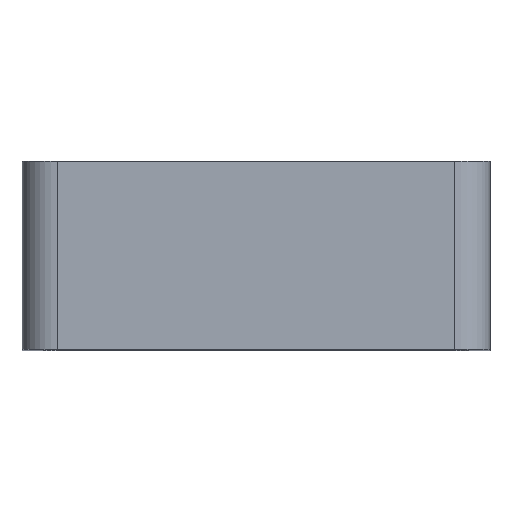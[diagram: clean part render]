
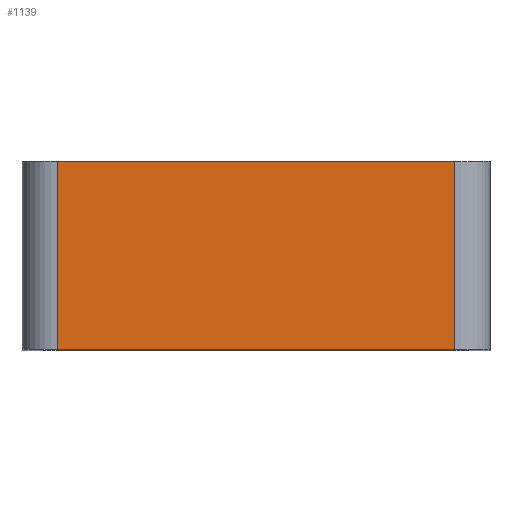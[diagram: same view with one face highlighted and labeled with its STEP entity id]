
A CAD part, top view. The second image highlights one B-rep face of the part: STEP entity #1139.
In plain terms, the highlighted planar face has unit normal (0, 0, 1).
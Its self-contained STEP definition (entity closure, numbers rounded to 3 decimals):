
#44 = PLANE('',#45);
#45 = AXIS2_PLACEMENT_3D('',#46,#47,#48);
#46 = CARTESIAN_POINT('',(-16.5,-4.5,-36.));
#47 = DIRECTION('',(0.,1.,0.));
#48 = DIRECTION('',(0.,0.,1.));
#100 = PLANE('',#101);
#101 = AXIS2_PLACEMENT_3D('',#102,#103,#104);
#102 = CARTESIAN_POINT('',(-16.5,11.6,-36.));
#103 = DIRECTION('',(0.,1.,0.));
#104 = DIRECTION('',(0.,0.,1.));
#126 = CYLINDRICAL_SURFACE('',#127,3.);
#127 = AXIS2_PLACEMENT_3D('',#128,#129,#130);
#128 = CARTESIAN_POINT('',(-13.5,-4.5,33.));
#129 = DIRECTION('',(0.,1.,0.));
#130 = DIRECTION('',(-1.,0.,0.));
#199 = VERTEX_POINT('',#200);
#200 = CARTESIAN_POINT('',(-13.5,-4.5,36.));
#222 = EDGE_CURVE('',#199,#223,#225,.T.);
#223 = VERTEX_POINT('',#224);
#224 = CARTESIAN_POINT('',(20.5,-4.5,36.));
#225 = SURFACE_CURVE('',#226,(#230,#237),.PCURVE_S1.);
#226 = LINE('',#227,#228);
#227 = CARTESIAN_POINT('',(-16.5,-4.5,36.));
#228 = VECTOR('',#229,1.);
#229 = DIRECTION('',(1.,0.,0.));
#230 = PCURVE('',#44,#231);
#231 = DEFINITIONAL_REPRESENTATION('',(#232),#236);
#232 = LINE('',#233,#234);
#233 = CARTESIAN_POINT('',(72.,0.));
#234 = VECTOR('',#235,1.);
#235 = DIRECTION('',(0.,1.));
#236 = ( GEOMETRIC_REPRESENTATION_CONTEXT(2) 
PARAMETRIC_REPRESENTATION_CONTEXT() REPRESENTATION_CONTEXT('2D SPACE',''
  ) );
#237 = PCURVE('',#238,#243);
#238 = PLANE('',#239);
#239 = AXIS2_PLACEMENT_3D('',#240,#241,#242);
#240 = CARTESIAN_POINT('',(-16.5,-4.5,36.));
#241 = DIRECTION('',(0.,0.,1.));
#242 = DIRECTION('',(1.,0.,0.));
#243 = DEFINITIONAL_REPRESENTATION('',(#244),#248);
#244 = LINE('',#245,#246);
#245 = CARTESIAN_POINT('',(0.,0.));
#246 = VECTOR('',#247,1.);
#247 = DIRECTION('',(1.,0.));
#248 = ( GEOMETRIC_REPRESENTATION_CONTEXT(2) 
PARAMETRIC_REPRESENTATION_CONTEXT() REPRESENTATION_CONTEXT('2D SPACE',''
  ) );
#271 = CYLINDRICAL_SURFACE('',#272,3.);
#272 = AXIS2_PLACEMENT_3D('',#273,#274,#275);
#273 = CARTESIAN_POINT('',(20.5,-4.5,33.));
#274 = DIRECTION('',(0.,1.,0.));
#275 = DIRECTION('',(1.,0.,-0.));
#618 = EDGE_CURVE('',#199,#619,#621,.T.);
#619 = VERTEX_POINT('',#620);
#620 = CARTESIAN_POINT('',(-13.5,11.6,36.));
#621 = SURFACE_CURVE('',#622,(#626,#633),.PCURVE_S1.);
#622 = LINE('',#623,#624);
#623 = CARTESIAN_POINT('',(-13.5,-4.5,36.));
#624 = VECTOR('',#625,1.);
#625 = DIRECTION('',(0.,1.,0.));
#626 = PCURVE('',#126,#627);
#627 = DEFINITIONAL_REPRESENTATION('',(#628),#632);
#628 = LINE('',#629,#630);
#629 = CARTESIAN_POINT('',(1.571,0.));
#630 = VECTOR('',#631,1.);
#631 = DIRECTION('',(0.,1.));
#632 = ( GEOMETRIC_REPRESENTATION_CONTEXT(2) 
PARAMETRIC_REPRESENTATION_CONTEXT() REPRESENTATION_CONTEXT('2D SPACE',''
  ) );
#633 = PCURVE('',#238,#634);
#634 = DEFINITIONAL_REPRESENTATION('',(#635),#639);
#635 = LINE('',#636,#637);
#636 = CARTESIAN_POINT('',(3.,0.));
#637 = VECTOR('',#638,1.);
#638 = DIRECTION('',(0.,1.));
#639 = ( GEOMETRIC_REPRESENTATION_CONTEXT(2) 
PARAMETRIC_REPRESENTATION_CONTEXT() REPRESENTATION_CONTEXT('2D SPACE',''
  ) );
#693 = EDGE_CURVE('',#619,#694,#696,.T.);
#694 = VERTEX_POINT('',#695);
#695 = CARTESIAN_POINT('',(20.5,11.6,36.));
#696 = SURFACE_CURVE('',#697,(#701,#708),.PCURVE_S1.);
#697 = LINE('',#698,#699);
#698 = CARTESIAN_POINT('',(-16.5,11.6,36.));
#699 = VECTOR('',#700,1.);
#700 = DIRECTION('',(1.,0.,0.));
#701 = PCURVE('',#100,#702);
#702 = DEFINITIONAL_REPRESENTATION('',(#703),#707);
#703 = LINE('',#704,#705);
#704 = CARTESIAN_POINT('',(72.,0.));
#705 = VECTOR('',#706,1.);
#706 = DIRECTION('',(0.,1.));
#707 = ( GEOMETRIC_REPRESENTATION_CONTEXT(2) 
PARAMETRIC_REPRESENTATION_CONTEXT() REPRESENTATION_CONTEXT('2D SPACE',''
  ) );
#708 = PCURVE('',#238,#709);
#709 = DEFINITIONAL_REPRESENTATION('',(#710),#714);
#710 = LINE('',#711,#712);
#711 = CARTESIAN_POINT('',(0.,16.1));
#712 = VECTOR('',#713,1.);
#713 = DIRECTION('',(1.,0.));
#714 = ( GEOMETRIC_REPRESENTATION_CONTEXT(2) 
PARAMETRIC_REPRESENTATION_CONTEXT() REPRESENTATION_CONTEXT('2D SPACE',''
  ) );
#1117 = EDGE_CURVE('',#223,#694,#1118,.T.);
#1118 = SURFACE_CURVE('',#1119,(#1123,#1130),.PCURVE_S1.);
#1119 = LINE('',#1120,#1121);
#1120 = CARTESIAN_POINT('',(20.5,-4.5,36.));
#1121 = VECTOR('',#1122,1.);
#1122 = DIRECTION('',(0.,1.,0.));
#1123 = PCURVE('',#271,#1124);
#1124 = DEFINITIONAL_REPRESENTATION('',(#1125),#1129);
#1125 = LINE('',#1126,#1127);
#1126 = CARTESIAN_POINT('',(-1.571,0.));
#1127 = VECTOR('',#1128,1.);
#1128 = DIRECTION('',(-0.,1.));
#1129 = ( GEOMETRIC_REPRESENTATION_CONTEXT(2) 
PARAMETRIC_REPRESENTATION_CONTEXT() REPRESENTATION_CONTEXT('2D SPACE',''
  ) );
#1130 = PCURVE('',#238,#1131);
#1131 = DEFINITIONAL_REPRESENTATION('',(#1132),#1136);
#1132 = LINE('',#1133,#1134);
#1133 = CARTESIAN_POINT('',(37.,0.));
#1134 = VECTOR('',#1135,1.);
#1135 = DIRECTION('',(0.,1.));
#1136 = ( GEOMETRIC_REPRESENTATION_CONTEXT(2) 
PARAMETRIC_REPRESENTATION_CONTEXT() REPRESENTATION_CONTEXT('2D SPACE',''
  ) );
#1139 = ADVANCED_FACE('',(#1140),#238,.T.);
#1140 = FACE_BOUND('',#1141,.T.);
#1141 = EDGE_LOOP('',(#1142,#1143,#1144,#1145));
#1142 = ORIENTED_EDGE('',*,*,#693,.F.);
#1143 = ORIENTED_EDGE('',*,*,#618,.F.);
#1144 = ORIENTED_EDGE('',*,*,#222,.T.);
#1145 = ORIENTED_EDGE('',*,*,#1117,.T.);
